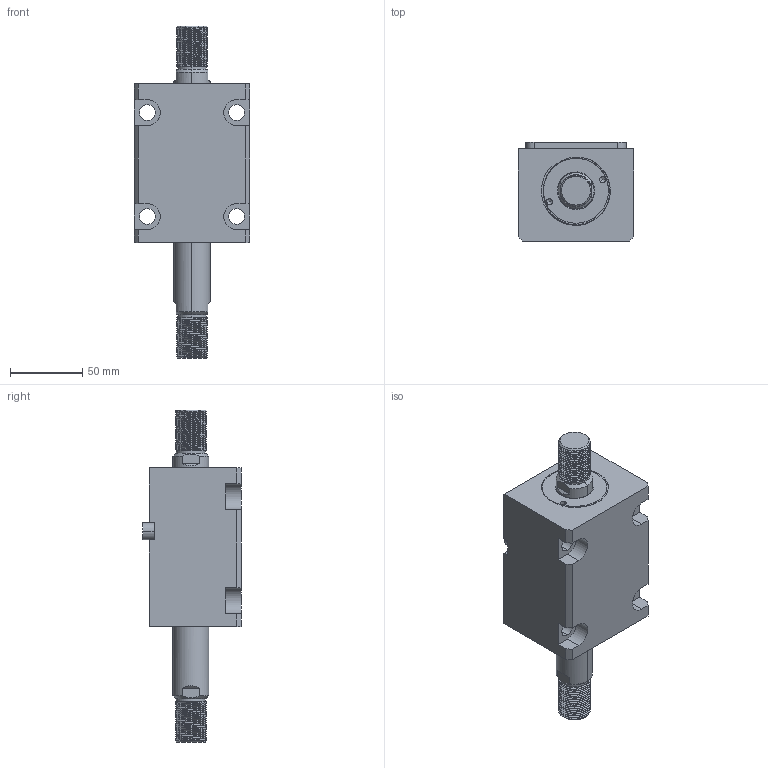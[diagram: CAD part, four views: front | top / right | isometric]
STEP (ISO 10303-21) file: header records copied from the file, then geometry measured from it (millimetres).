
FILE_DESCRIPTION (( 'STEP AP214' ), '1' );
FILE_NAME ('chtb-lwm40x40w_asm.STEP', '2018-05-31T00:42:04', ( 'Windows' ), ( 'Microsoft' ), 'SwSTEP 2.0', 'SolidWorks 2015', '' );
FILE_SCHEMA (( 'AUTOMOTIVE_DESIGN' ));
Length unit declared in the file: millimetre
Products named in the file (5): CHTB-SW40X40NHSG; CHTB-SD40QG; CHTB-LA40PJ; CHTB-LWM40X40NBT; chtb-lwm40x40w_asm
Assembly tree (4 placements, depth 2):
  chtb-lwm40x40w_asm
    CHTB-LWM40X40NBT
    CHTB-LA40PJ
    CHTB-SD40QG
    CHTB-SW40X40NHSG
Bounding box: 80 x 68.5 x 230 mm (x, y, z)
Volume: 549412.5 mm3; surface area: 99192 mm2
Topology: 4 solids, 4 shells, 252 faces, 699 edges, 465 vertices
Faces by surface type: cylinder 152, plane 57, bspline 18, cone 13, torus 12
Entity records: 17373 total; most frequent: CARTESIAN_POINT 11260, ORIENTED_EDGE 1386, DIRECTION 1092, EDGE_CURVE 693, VERTEX_POINT 465, AXIS2_PLACEMENT_3D 419, EDGE_LOOP 284, LINE 254
